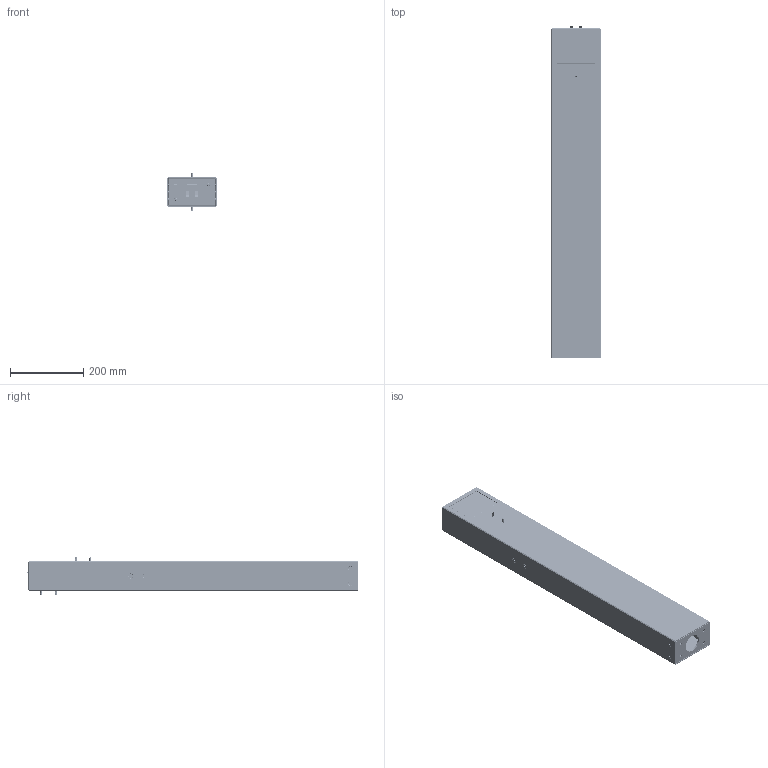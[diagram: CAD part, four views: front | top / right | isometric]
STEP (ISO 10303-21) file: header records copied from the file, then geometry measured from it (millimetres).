
FILE_DESCRIPTION((''),'2;1');
FILE_NAME('PALETTO-503-ALLUMINIO_ASM','2025-07-29T12:25:39',('Piccioli'),(''),'CREO PARAMETRIC BY PTC INC, 2025010','CREO PARAMETRIC BY PTC INC, 2025010','');
FILE_SCHEMA(('CONFIG_CONTROL_DESIGN'));
Products named in the file (47): PAPNA32G; LB11660; CMBNX03G; VERS10PV; RILB2101-OLD; CMGNX03G; CMCNX03G; VIV3513V; CMCFR05A; ETALB01I; ALC7P010; ALVIT-AL312-612; SLIM-POWERED-LED-33W-QLT; ERC-698908-698953; ACVRSP53; BT043601; BT0220T1; RILB1402; CIRCUITO-TOUCH; CMLNEXTA; VIV2995Z; GUST0503; GUPS1305; VIN0808A; VIV2965Z; VERS1TPV; CMCFR05G; SM3X10; VIV0435Z; ACVRTSNY; CMCNXF3G; CMLNX3CA; RIVETTO-4; ACCSX30P; CAFDM01S; GUOR3324; VERS1APV; CMRNXA3G; ASSIEME-503_ASM; CMCPNA0Z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
Assembly tree (81 placements, depth 3):
  PALETTO-503-ALLUMINIO_ASM
    PAPNA32G
    ASSIEME-503_ASM  x2
      LB11660
      CMBNX03G
      VERS10PV
      RILB2101-OLD
      CMGNX03G
      CMCNX03G
      VIV3513V
      CMCFR05A
      ETALB01I
      ALC7P010
      ALVIT-AL312-612
      SLIM-POWERED-LED-33W-QLT
      ERC-698908-698953
      ACVRSP53
      BT043601
      BT0220T1
      RILB1402
      CIRCUITO-TOUCH
      CMLNEXTA
      VIV2995Z
      GUST0503
      GUPS1305
      VIN0808A
      VIV2965Z
      VERS1TPV
      CMCFR05G
      SM3X10
      VIV0435Z
      ACVRTSNY
      CMCNXF3G
      CMLNX3CA
      RIVETTO-4
      ACCSX30P
      CAFDM01S
      GUOR3324
      VERS1APV
      CMRNXA3G
    CMCPNA0Z  x4
    VIVM614A  x8
    VIDMA80A  x4
    VITM8400  x2
    PAPNA30G
    TRAFILA-AL-600-PALO-NEXT
    TRAFILA-AL-900-PALO-NEXT
Bounding box: 135 x 905.8 x 105.8 mm (x, y, z)
Volume: 4460629.8 mm3; surface area: 2524092.2 mm2
Topology: 174 solids, 239 shells, 14839 faces, 39508 edges, 25702 vertices
Faces by surface type: plane 9345, cylinder 2836, cone 1006, extrusion 596, bspline 498, torus 438, sphere 120
Entity records: 260261 total; most frequent: CARTESIAN_POINT 91525, ORIENTED_EDGE 35766, DIRECTION 32516, EDGE_CURVE 18040, VECTOR 13578, LINE 13276, VERTEX_POINT 11728, AXIS2_PLACEMENT_3D 9469
